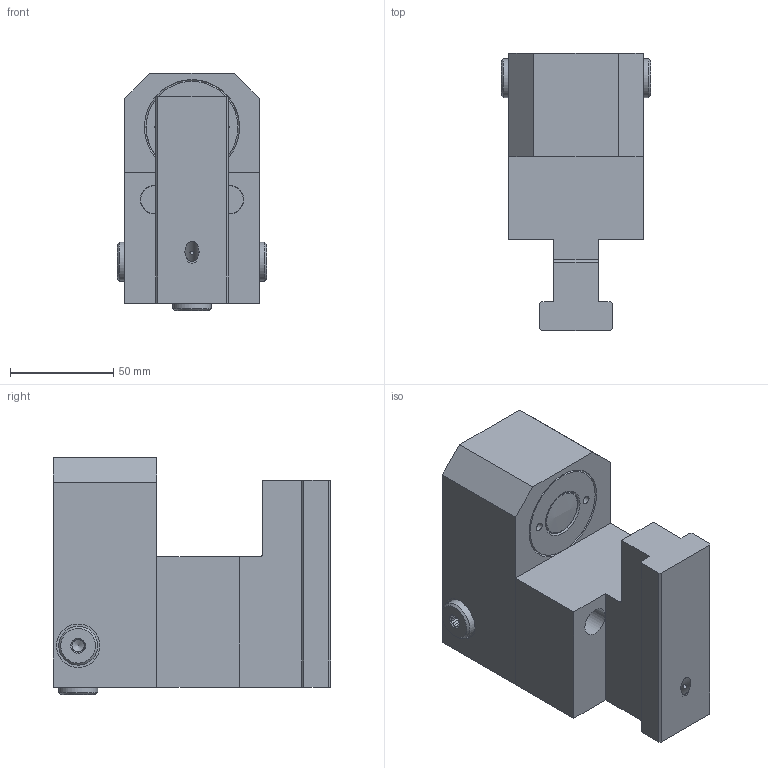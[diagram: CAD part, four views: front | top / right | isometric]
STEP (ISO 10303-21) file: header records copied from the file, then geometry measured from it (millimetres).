
FILE_DESCRIPTION(/* description */ (''),/* implementation_level */ '2;1');
FILE_NAME(/* name */ 'S:\EASCN Vault\Designs\Standard Part\T-SLOT\MTC CLAMPS\MTC45\MTC45-22-XX_(20200507).stp',/* time_stamp */ '2020-05-07T16:00:25+08:00',/* author */ ('yue.yang'),/* organization */ (''),/* preprocessor_version */ 'ST-DEVELOPER v17',/* originating_system */ 'Autodesk Inventor 2019',/* authorisation */ '');
FILE_SCHEMA (('AUTOMOTIVE_DESIGN { 1 0 10303 214 3 1 1 }'));
Length unit declared in the file: millimetre
Products named in the file (1): MTC45-22-XX_Shrinkwrap_1
Bounding box: 72.2 x 134.03 x 114.6 mm (x, y, z)
Volume: 584243.6 mm3; surface area: 119318.2 mm2
Topology: 13 solids, 13 shells, 476 faces, 1277 edges, 873 vertices
Faces by surface type: plane 239, bspline 123, cylinder 62, cone 35, torus 16, sphere 1
Full cylindrical faces by diameter (mm): 4 x3, 6 x3, 6.8 x1, 8 x1, 11.2 x3, 11.445 x4, 11.6 x3, 12 x1, 13.157 x3, 13.835 x2, 16 x2, 16.4 x3, 16.8 x3, 17 x2, 18.8 x3, 21 x3, 21.95 x1, 22.1 x1, 24 x2, 26 x2, 27 x2, 33.9 x1, 37 x1, 39.97 x2, 40.02 x1, 41 x1, 44 x1, 46 x1, 47 x1
Entity records: 17255 total; most frequent: CARTESIAN_POINT 5374, ORIENTED_EDGE 2540, DIRECTION 2012, EDGE_CURVE 1270, VERTEX_POINT 873, AXIS2_PLACEMENT_3D 697, LINE 618, VECTOR 618
